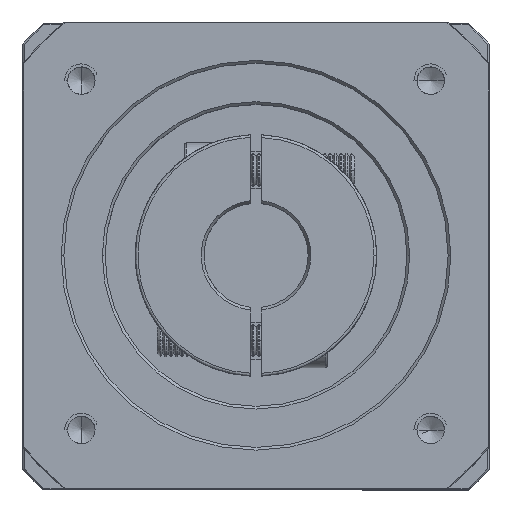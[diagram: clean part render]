
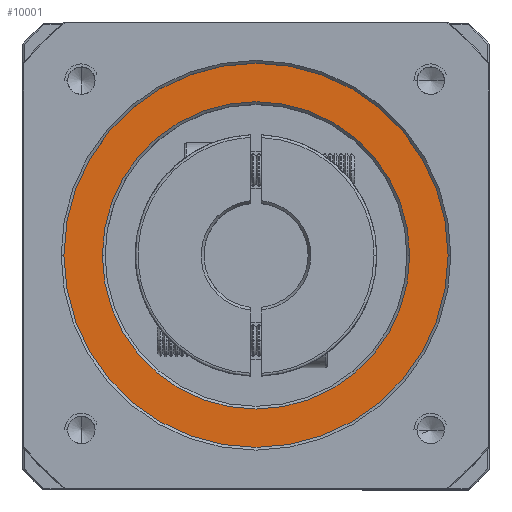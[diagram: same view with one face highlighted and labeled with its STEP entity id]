
A CAD part, top view. The second image highlights one B-rep face of the part: STEP entity #10001.
In plain terms, the highlighted planar face has unit normal (0, 0, 1).
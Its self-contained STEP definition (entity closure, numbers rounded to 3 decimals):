
#2190 = CARTESIAN_POINT ( 'NONE',  ( -51.678, 33.802, 14.609 ) ) ;
#4829 = AXIS2_PLACEMENT_3D ( 'NONE', #87642, #97112, #68469 ) ;
#10001 = ADVANCED_FACE ( 'NONE', ( #125944, #29552 ), #118010, .T. ) ;
#13208 = DIRECTION ( 'NONE',  ( 1., 0., 0. ) ) ;
#13426 = CIRCLE ( 'NONE', #87758, 35. ) ;
#18447 = VERTEX_POINT ( 'NONE', #24527 ) ;
#24527 = CARTESIAN_POINT ( 'NONE',  ( -86.678, 33.802, 14.609 ) ) ;
#25710 = VERTEX_POINT ( 'NONE', #34908 ) ;
#27712 = DIRECTION ( 'NONE',  ( 0., 0., -1. ) ) ;
#29552 = FACE_BOUND ( 'NONE', #55065, .T. ) ;
#34293 = AXIS2_PLACEMENT_3D ( 'NONE', #42671, #81432, #13208 ) ;
#34908 = CARTESIAN_POINT ( 'NONE',  ( -79.678, 33.802, 14.609 ) ) ;
#35597 = ORIENTED_EDGE ( 'NONE', *, *, #118694, .T. ) ;
#39568 = ORIENTED_EDGE ( 'NONE', *, *, #99671, .T. ) ;
#42091 = CARTESIAN_POINT ( 'NONE',  ( -23.678, 33.802, 14.609 ) ) ;
#42671 = CARTESIAN_POINT ( 'NONE',  ( -51.678, 33.802, 14.609 ) ) ;
#51532 = EDGE_CURVE ( 'NONE', #113505, #18447, #67856, .T. ) ;
#55065 = EDGE_LOOP ( 'NONE', ( #35597, #39568 ) ) ;
#61745 = DIRECTION ( 'NONE',  ( 1., 0., 0. ) ) ;
#66218 = AXIS2_PLACEMENT_3D ( 'NONE', #96824, #27712, #97249 ) ;
#66984 = VERTEX_POINT ( 'NONE', #42091 ) ;
#67856 = CIRCLE ( 'NONE', #68266, 35. ) ;
#68266 = AXIS2_PLACEMENT_3D ( 'NONE', #2190, #73029, #61745 ) ;
#68469 = DIRECTION ( 'NONE',  ( 1., 0., 0. ) ) ;
#73029 = DIRECTION ( 'NONE',  ( 0., 0., 1. ) ) ;
#78092 = EDGE_CURVE ( 'NONE', #18447, #113505, #13426, .T. ) ;
#78172 = EDGE_LOOP ( 'NONE', ( #116486, #125170 ) ) ;
#78209 = CIRCLE ( 'NONE', #66218, 28. ) ;
#79464 = CARTESIAN_POINT ( 'NONE',  ( -16.678, 33.802, 14.609 ) ) ;
#81432 = DIRECTION ( 'NONE',  ( 0., 0., -1. ) ) ;
#85188 = DIRECTION ( 'NONE',  ( 1., 0., 0. ) ) ;
#87642 = CARTESIAN_POINT ( 'NONE',  ( -51.678, 33.802, 14.609 ) ) ;
#87758 = AXIS2_PLACEMENT_3D ( 'NONE', #125103, #125957, #85188 ) ;
#92226 = CIRCLE ( 'NONE', #34293, 28. ) ;
#96824 = CARTESIAN_POINT ( 'NONE',  ( -51.678, 33.802, 14.609 ) ) ;
#97112 = DIRECTION ( 'NONE',  ( 0., 0., 1. ) ) ;
#97249 = DIRECTION ( 'NONE',  ( 1., 0., 0. ) ) ;
#99671 = EDGE_CURVE ( 'NONE', #25710, #66984, #92226, .T. ) ;
#113505 = VERTEX_POINT ( 'NONE', #79464 ) ;
#116486 = ORIENTED_EDGE ( 'NONE', *, *, #51532, .T. ) ;
#118010 = PLANE ( 'NONE',  #4829 ) ;
#118694 = EDGE_CURVE ( 'NONE', #66984, #25710, #78209, .T. ) ;
#125103 = CARTESIAN_POINT ( 'NONE',  ( -51.678, 33.802, 14.609 ) ) ;
#125170 = ORIENTED_EDGE ( 'NONE', *, *, #78092, .T. ) ;
#125944 = FACE_OUTER_BOUND ( 'NONE', #78172, .T. ) ;
#125957 = DIRECTION ( 'NONE',  ( 0., 0., 1. ) ) ;
